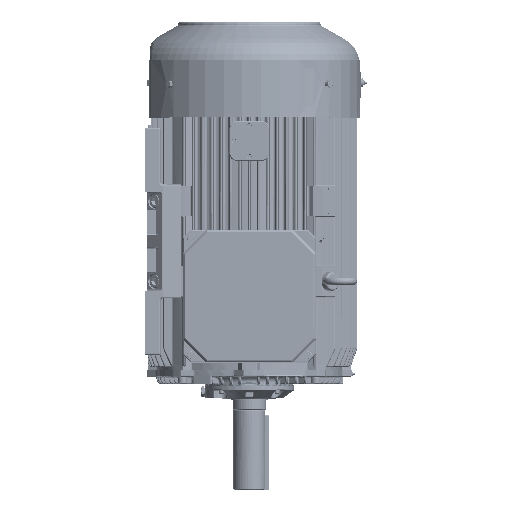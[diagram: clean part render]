
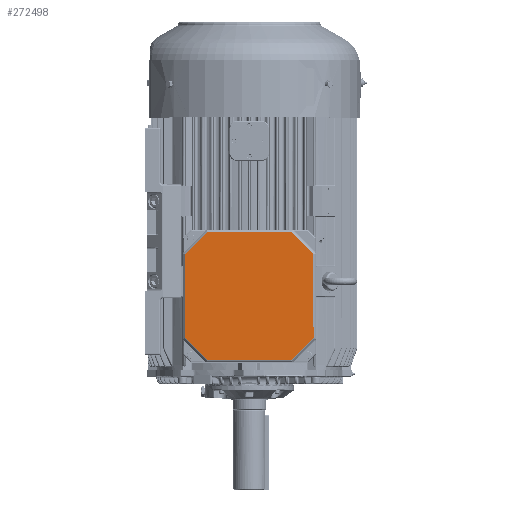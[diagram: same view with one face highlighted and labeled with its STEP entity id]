
A CAD part, top view. The second image highlights one B-rep face of the part: STEP entity #272498.
In plain terms, the highlighted planar face has unit normal (0, 0, 1).
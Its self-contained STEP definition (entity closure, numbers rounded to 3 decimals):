
#17665=LINE('',#364775,#35166);
#17666=LINE('',#364794,#35167);
#17668=LINE('',#364814,#35169);
#17670=LINE('',#364817,#35171);
#17671=LINE('',#364818,#35172);
#17672=LINE('',#364819,#35173);
#17673=LINE('',#364821,#35174);
#17674=LINE('',#364822,#35175);
#35166=VECTOR('',#307674,1000.);
#35167=VECTOR('',#307697,1000.);
#35169=VECTOR('',#307721,1000.);
#35171=VECTOR('',#307725,1000.);
#35172=VECTOR('',#307726,1000.);
#35173=VECTOR('',#307727,1000.);
#35174=VECTOR('',#307728,1000.);
#35175=VECTOR('',#307729,1000.);
#57061=ORIENTED_EDGE('',*,*,#111610,.T.);
#57062=ORIENTED_EDGE('',*,*,#111629,.T.);
#57063=ORIENTED_EDGE('',*,*,#111618,.T.);
#57064=ORIENTED_EDGE('',*,*,#111630,.T.);
#57065=ORIENTED_EDGE('',*,*,#111627,.T.);
#57066=ORIENTED_EDGE('',*,*,#111631,.T.);
#57067=ORIENTED_EDGE('',*,*,#111632,.T.);
#57068=ORIENTED_EDGE('',*,*,#111633,.T.);
#111610=EDGE_CURVE('',#139245,#139253,#17665,.T.);
#111618=EDGE_CURVE('',#139257,#139260,#17666,.T.);
#111627=EDGE_CURVE('',#139264,#139267,#17668,.T.);
#111629=EDGE_CURVE('',#139253,#139257,#17670,.T.);
#111630=EDGE_CURVE('',#139260,#139264,#17671,.T.);
#111631=EDGE_CURVE('',#139267,#139268,#17672,.T.);
#111632=EDGE_CURVE('',#139268,#139248,#17673,.T.);
#111633=EDGE_CURVE('',#139248,#139245,#17674,.T.);
#139245=VERTEX_POINT('',#364755);
#139248=VERTEX_POINT('',#364762);
#139253=VERTEX_POINT('',#364774);
#139257=VERTEX_POINT('',#364785);
#139260=VERTEX_POINT('',#364793);
#139264=VERTEX_POINT('',#364805);
#139267=VERTEX_POINT('',#364813);
#139268=VERTEX_POINT('',#364820);
#157492=EDGE_LOOP('',(#57061,#57062,#57063,#57064,#57065,#57066,#57067,
#57068));
#171918=FACE_BOUND('',#157492,.T.);
#185287=PLANE('',#285280);
#272498=ADVANCED_FACE('',(#171918),#185287,.T.);
#285280=AXIS2_PLACEMENT_3D('',#364816,#307723,#307724);
#307674=DIRECTION('',(0.707,0.707,0.));
#307697=DIRECTION('',(-0.707,0.707,0.));
#307721=DIRECTION('',(-0.707,-0.707,0.));
#307723=DIRECTION('',(0.,0.,1.));
#307724=DIRECTION('',(0.,1.,0.));
#307725=DIRECTION('',(0.,1.,0.));
#307726=DIRECTION('',(-1.,0.,0.));
#307727=DIRECTION('',(0.,-1.,0.));
#307728=DIRECTION('',(0.707,-0.707,0.));
#307729=DIRECTION('',(1.,0.,0.));
#364755=CARTESIAN_POINT('',(112.592,26.363,489.556));
#364762=CARTESIAN_POINT('',(-111.579,26.331,489.556));
#364774=CARTESIAN_POINT('',(172.169,85.958,489.556));
#364775=CARTESIAN_POINT('',(-35.093,-121.365,489.556));
#364785=CARTESIAN_POINT('',(172.137,310.129,489.556));
#364793=CARTESIAN_POINT('',(112.533,369.715,489.556));
#364794=CARTESIAN_POINT('',(142.339,339.918,489.556));
#364805=CARTESIAN_POINT('',(-111.621,369.683,489.556));
#364813=CARTESIAN_POINT('',(-171.207,310.079,489.556));
#364814=CARTESIAN_POINT('',(-318.892,162.351,489.556));
#364816=CARTESIAN_POINT('',(-176.993,20.493,489.556));
#364817=CARTESIAN_POINT('',(172.179,20.544,489.556));
#364818=CARTESIAN_POINT('',(-177.044,369.673,489.556));
#364819=CARTESIAN_POINT('',(-171.164,20.494,489.556));
#364820=CARTESIAN_POINT('',(-171.174,85.908,489.556));
#364821=CARTESIAN_POINT('',(-141.377,56.119,489.556));
#364822=CARTESIAN_POINT('',(-176.994,26.321,489.556));
